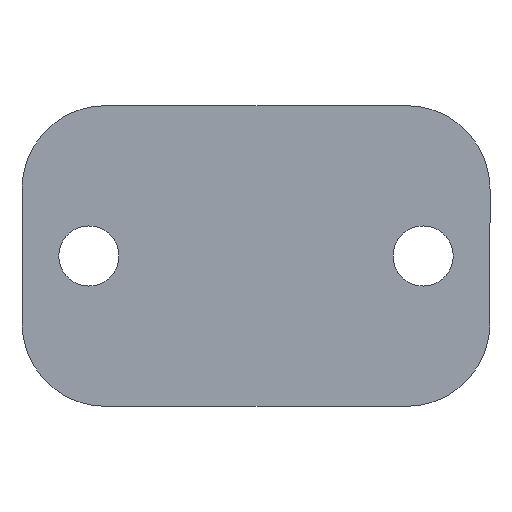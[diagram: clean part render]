
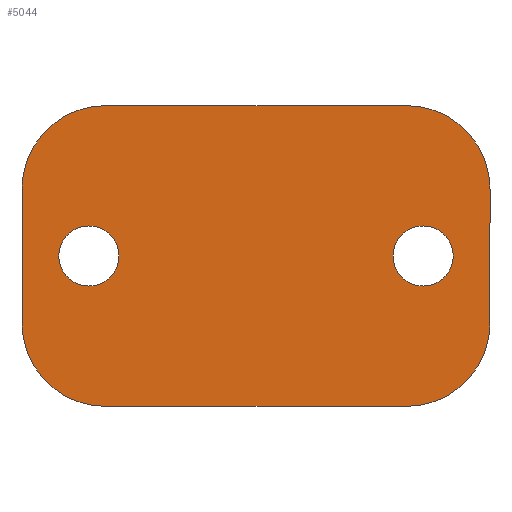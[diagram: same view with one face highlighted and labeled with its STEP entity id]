
A CAD part, front view. The second image highlights one B-rep face of the part: STEP entity #5044.
In plain terms, the highlighted planar face has unit normal (0, -1, 0).
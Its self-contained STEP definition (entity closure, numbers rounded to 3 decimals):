
#21 = CARTESIAN_POINT ( 'NONE',  ( -45., -20., -20. ) ) ;
#288 = EDGE_CURVE ( 'NONE', #549, #1025, #1120, .T. ) ;
#334 = EDGE_CURVE ( 'NONE', #2463, #3578, #4613, .T. ) ;
#342 = DIRECTION ( 'NONE',  ( 0., 0., -1. ) ) ;
#347 = EDGE_CURVE ( 'NONE', #1025, #549, #4211, .T. ) ;
#365 = ORIENTED_EDGE ( 'NONE', *, *, #2371, .T. ) ;
#549 = VERTEX_POINT ( 'NONE', #4607 ) ;
#588 = VERTEX_POINT ( 'NONE', #5452 ) ;
#593 = VERTEX_POINT ( 'NONE', #1694 ) ;
#614 = EDGE_CURVE ( 'NONE', #688, #3176, #4396, .T. ) ;
#627 = CIRCLE ( 'NONE', #3330, 9. ) ;
#637 = VERTEX_POINT ( 'NONE', #3134 ) ;
#688 = VERTEX_POINT ( 'NONE', #4832 ) ;
#702 = VECTOR ( 'NONE', #3101, 1000. ) ;
#705 = CARTESIAN_POINT ( 'NONE',  ( -50., -20., 0. ) ) ;
#736 = DIRECTION ( 'NONE',  ( 1., 0., 0. ) ) ;
#756 = CARTESIAN_POINT ( 'NONE',  ( -45., -20., 20. ) ) ;
#777 = CIRCLE ( 'NONE', #1853, 25. ) ;
#794 = EDGE_CURVE ( 'NONE', #4882, #1375, #4659, .T. ) ;
#1025 = VERTEX_POINT ( 'NONE', #4263 ) ;
#1036 = VECTOR ( 'NONE', #342, 1000. ) ;
#1047 = EDGE_CURVE ( 'NONE', #1851, #637, #2641, .T. ) ;
#1087 = FACE_BOUND ( 'NONE', #2110, .T. ) ;
#1115 = DIRECTION ( 'NONE',  ( 0., -1., 0. ) ) ;
#1120 = CIRCLE ( 'NONE', #2574, 9. ) ;
#1124 = VECTOR ( 'NONE', #4710, 1000. ) ;
#1253 = AXIS2_PLACEMENT_3D ( 'NONE', #3293, #1115, #2843 ) ;
#1275 = DIRECTION ( 'NONE',  ( 0., -1., 0. ) ) ;
#1357 = CARTESIAN_POINT ( 'NONE',  ( 45., -20., -20. ) ) ;
#1375 = VERTEX_POINT ( 'NONE', #4257 ) ;
#1440 = ORIENTED_EDGE ( 'NONE', *, *, #2631, .T. ) ;
#1485 = AXIS2_PLACEMENT_3D ( 'NONE', #1357, #1275, #2997 ) ;
#1564 = EDGE_CURVE ( 'NONE', #588, #1851, #777, .T. ) ;
#1694 = CARTESIAN_POINT ( 'NONE',  ( -45., -20., -45. ) ) ;
#1716 = DIRECTION ( 'NONE',  ( 1., 0., 0. ) ) ;
#1851 = VERTEX_POINT ( 'NONE', #3980 ) ;
#1853 = AXIS2_PLACEMENT_3D ( 'NONE', #3988, #2707, #4825 ) ;
#2044 = ORIENTED_EDGE ( 'NONE', *, *, #334, .T. ) ;
#2110 = EDGE_LOOP ( 'NONE', ( #3918, #4409 ) ) ;
#2203 = CARTESIAN_POINT ( 'NONE',  ( 41., -20., 0. ) ) ;
#2211 = EDGE_LOOP ( 'NONE', ( #2801, #4302 ) ) ;
#2238 = AXIS2_PLACEMENT_3D ( 'NONE', #756, #2465, #4214 ) ;
#2371 = EDGE_CURVE ( 'NONE', #637, #2463, #4333, .T. ) ;
#2463 = VERTEX_POINT ( 'NONE', #5486 ) ;
#2465 = DIRECTION ( 'NONE',  ( 0., -1., 0. ) ) ;
#2574 = AXIS2_PLACEMENT_3D ( 'NONE', #705, #5404, #5001 ) ;
#2617 = CARTESIAN_POINT ( 'NONE',  ( -45., -20., 45. ) ) ;
#2631 = EDGE_CURVE ( 'NONE', #3176, #588, #4466, .T. ) ;
#2641 = LINE ( 'NONE', #2617, #1124 ) ;
#2706 = AXIS2_PLACEMENT_3D ( 'NONE', #21, #4323, #1716 ) ;
#2707 = DIRECTION ( 'NONE',  ( 0., -1., 0. ) ) ;
#2708 = CARTESIAN_POINT ( 'NONE',  ( 70., -20., 20. ) ) ;
#2801 = ORIENTED_EDGE ( 'NONE', *, *, #347, .F. ) ;
#2814 = DIRECTION ( 'NONE',  ( 1., 0., 0. ) ) ;
#2819 = PLANE ( 'NONE',  #1253 ) ;
#2843 = DIRECTION ( 'NONE',  ( 1., 0., 0. ) ) ;
#2869 = CARTESIAN_POINT ( 'NONE',  ( 50., -20., 0. ) ) ;
#2946 = CARTESIAN_POINT ( 'NONE',  ( -50., -20., 0. ) ) ;
#2997 = DIRECTION ( 'NONE',  ( 1., 0., 0. ) ) ;
#3053 = DIRECTION ( 'NONE',  ( 1., 0., 0. ) ) ;
#3101 = DIRECTION ( 'NONE',  ( 0., 0., 1. ) ) ;
#3134 = CARTESIAN_POINT ( 'NONE',  ( -45., -20., 45. ) ) ;
#3176 = VERTEX_POINT ( 'NONE', #5033 ) ;
#3235 = VECTOR ( 'NONE', #3053, 1000. ) ;
#3239 = ORIENTED_EDGE ( 'NONE', *, *, #1564, .T. ) ;
#3257 = EDGE_CURVE ( 'NONE', #593, #688, #3457, .T. ) ;
#3293 = CARTESIAN_POINT ( 'NONE',  ( 0., -20., 0. ) ) ;
#3330 = AXIS2_PLACEMENT_3D ( 'NONE', #2869, #3778, #2814 ) ;
#3344 = DIRECTION ( 'NONE',  ( 1., 0., 0. ) ) ;
#3457 = LINE ( 'NONE', #4395, #3235 ) ;
#3578 = VERTEX_POINT ( 'NONE', #4805 ) ;
#3733 = DIRECTION ( 'NONE',  ( 0., -1., 0. ) ) ;
#3778 = DIRECTION ( 'NONE',  ( 0., -1., 0. ) ) ;
#3789 = EDGE_CURVE ( 'NONE', #1375, #4882, #627, .T. ) ;
#3918 = ORIENTED_EDGE ( 'NONE', *, *, #3789, .F. ) ;
#3966 = EDGE_CURVE ( 'NONE', #3578, #593, #5315, .T. ) ;
#3980 = CARTESIAN_POINT ( 'NONE',  ( 45., -20., 45. ) ) ;
#3986 = EDGE_LOOP ( 'NONE', ( #4212, #4548, #5379, #1440, #3239, #4546, #365, #2044 ) ) ;
#3988 = CARTESIAN_POINT ( 'NONE',  ( 45., -20., 20. ) ) ;
#4211 = CIRCLE ( 'NONE', #5107, 9. ) ;
#4212 = ORIENTED_EDGE ( 'NONE', *, *, #3966, .T. ) ;
#4214 = DIRECTION ( 'NONE',  ( 1., 0., 0. ) ) ;
#4257 = CARTESIAN_POINT ( 'NONE',  ( 59., -20., 0. ) ) ;
#4263 = CARTESIAN_POINT ( 'NONE',  ( -41., -20., 0. ) ) ;
#4302 = ORIENTED_EDGE ( 'NONE', *, *, #288, .F. ) ;
#4323 = DIRECTION ( 'NONE',  ( 0., -1., 0. ) ) ;
#4333 = CIRCLE ( 'NONE', #2238, 25. ) ;
#4395 = CARTESIAN_POINT ( 'NONE',  ( -45., -20., -45. ) ) ;
#4396 = CIRCLE ( 'NONE', #1485, 25. ) ;
#4409 = ORIENTED_EDGE ( 'NONE', *, *, #794, .F. ) ;
#4466 = LINE ( 'NONE', #2708, #702 ) ;
#4546 = ORIENTED_EDGE ( 'NONE', *, *, #1047, .T. ) ;
#4548 = ORIENTED_EDGE ( 'NONE', *, *, #3257, .T. ) ;
#4565 = CARTESIAN_POINT ( 'NONE',  ( 50., -20., 0. ) ) ;
#4607 = CARTESIAN_POINT ( 'NONE',  ( -59., -20., 0. ) ) ;
#4613 = LINE ( 'NONE', #5094, #1036 ) ;
#4659 = CIRCLE ( 'NONE', #5378, 9. ) ;
#4710 = DIRECTION ( 'NONE',  ( -1., 0., 0. ) ) ;
#4805 = CARTESIAN_POINT ( 'NONE',  ( -70., -20., -20. ) ) ;
#4825 = DIRECTION ( 'NONE',  ( 1., 0., 0. ) ) ;
#4832 = CARTESIAN_POINT ( 'NONE',  ( 45., -20., -45. ) ) ;
#4882 = VERTEX_POINT ( 'NONE', #2203 ) ;
#4912 = FACE_OUTER_BOUND ( 'NONE', #3986, .T. ) ;
#4983 = DIRECTION ( 'NONE',  ( 0., -1., 0. ) ) ;
#4994 = FACE_BOUND ( 'NONE', #2211, .T. ) ;
#5001 = DIRECTION ( 'NONE',  ( 1., 0., 0. ) ) ;
#5033 = CARTESIAN_POINT ( 'NONE',  ( 70., -20., -20. ) ) ;
#5044 = ADVANCED_FACE ( 'NONE', ( #4994, #1087, #4912 ), #2819, .T. ) ;
#5094 = CARTESIAN_POINT ( 'NONE',  ( -70., -20., 20. ) ) ;
#5107 = AXIS2_PLACEMENT_3D ( 'NONE', #2946, #3733, #736 ) ;
#5315 = CIRCLE ( 'NONE', #2706, 25. ) ;
#5378 = AXIS2_PLACEMENT_3D ( 'NONE', #4565, #4983, #3344 ) ;
#5379 = ORIENTED_EDGE ( 'NONE', *, *, #614, .T. ) ;
#5404 = DIRECTION ( 'NONE',  ( 0., -1., 0. ) ) ;
#5452 = CARTESIAN_POINT ( 'NONE',  ( 70., -20., 20. ) ) ;
#5486 = CARTESIAN_POINT ( 'NONE',  ( -70., -20., 20. ) ) ;
